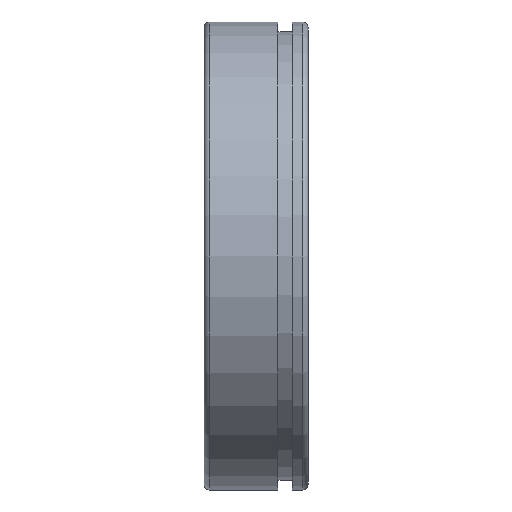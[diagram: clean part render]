
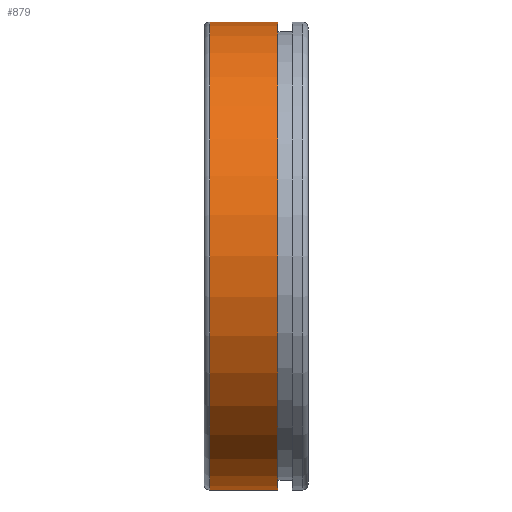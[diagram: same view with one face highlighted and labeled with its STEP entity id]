
A CAD part, front view. The second image highlights one B-rep face of the part: STEP entity #879.
In plain terms, the highlighted cylindrical face has radius 45 mm (diameter 90 mm), a full revolution.
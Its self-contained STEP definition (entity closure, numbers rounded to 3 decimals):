
#147=CYLINDRICAL_SURFACE($,#1023,45.);
#166=FACE_BOUND($,#288,.T.);
#220=FACE_OUTER_BOUND($,#287,.T.);
#287=EDGE_LOOP($,(#809));
#288=EDGE_LOOP($,(#810));
#381=CIRCLE($,#1022,45.);
#382=CIRCLE($,#1024,45.);
#467=VERTEX_POINT($,#2338);
#468=VERTEX_POINT($,#2341);
#584=EDGE_CURVE($,#467,#467,#381,.T.);
#585=EDGE_CURVE($,#468,#468,#382,.T.);
#809=ORIENTED_EDGE($,*,*,#585,.T.);
#810=ORIENTED_EDGE($,*,*,#584,.T.);
#879=ADVANCED_FACE($,(#220,#166),#147,.T.);
#1022=AXIS2_PLACEMENT_3D($,#2339,#1305,#1306);
#1023=AXIS2_PLACEMENT_3D($,#2340,#1307,#1308);
#1024=AXIS2_PLACEMENT_3D($,#2342,#1309,#1310);
#1305=DIRECTION('center_axis',(-1.,0.,0.));
#1306=DIRECTION('ref_axis',(0.,1.,0.));
#1307=DIRECTION('center_axis',(1.,0.,0.));
#1308=DIRECTION('ref_axis',(0.,1.,0.));
#1309=DIRECTION('center_axis',(1.,0.,0.));
#1310=DIRECTION('ref_axis',(0.,0.,-1.));
#2338=CARTESIAN_POINT('',(4.23,45.,0.));
#2339=CARTESIAN_POINT('Origin',(4.23,0.,0.));
#2340=CARTESIAN_POINT('Origin',(0.,0.,0.));
#2341=CARTESIAN_POINT('',(-8.9,45.,0.));
#2342=CARTESIAN_POINT('Origin',(-8.9,0.,0.));
